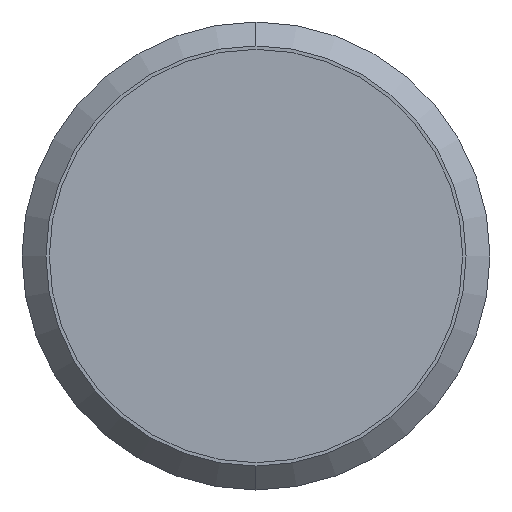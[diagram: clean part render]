
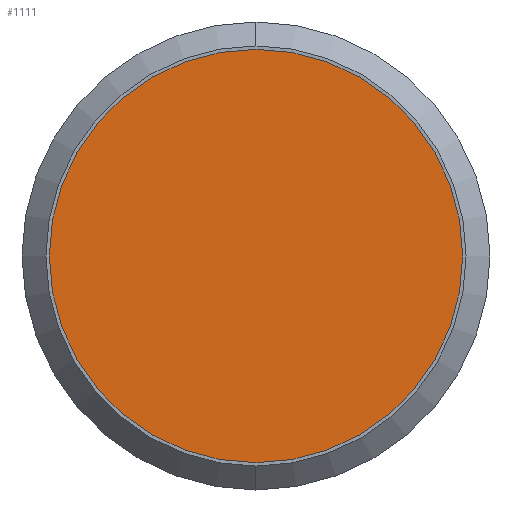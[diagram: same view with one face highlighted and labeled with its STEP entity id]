
A CAD part, left-side view. The second image highlights one B-rep face of the part: STEP entity #1111.
In plain terms, the highlighted planar face has unit normal (-1, 0, 0).
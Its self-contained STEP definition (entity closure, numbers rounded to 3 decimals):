
#16 = DIRECTION ( 'NONE',  ( 1., 0., 0. ) ) ;
#40 = CIRCLE ( 'NONE', #82, 5.3 ) ;
#82 = AXIS2_PLACEMENT_3D ( 'NONE', #173, #1167, #502 ) ;
#173 = CARTESIAN_POINT ( 'NONE',  ( 0., 0., 0. ) ) ;
#234 = CARTESIAN_POINT ( 'NONE',  ( 0., 0., 5.3 ) ) ;
#285 = CIRCLE ( 'NONE', #460, 5.3 ) ;
#347 = EDGE_LOOP ( 'NONE', ( #1663, #1524 ) ) ;
#460 = AXIS2_PLACEMENT_3D ( 'NONE', #874, #16, #1014 ) ;
#502 = DIRECTION ( 'NONE',  ( 0., 0., -1. ) ) ;
#523 = PLANE ( 'NONE',  #1491 ) ;
#805 = CARTESIAN_POINT ( 'NONE',  ( 0., 2.65, 0. ) ) ;
#874 = CARTESIAN_POINT ( 'NONE',  ( 0., 0., 0. ) ) ;
#939 = DIRECTION ( 'NONE',  ( 0., 0., 1. ) ) ;
#952 = EDGE_CURVE ( 'NONE', #1120, #1347, #285, .T. ) ;
#1001 = CARTESIAN_POINT ( 'NONE',  ( 0., 0., -5.3 ) ) ;
#1014 = DIRECTION ( 'NONE',  ( 0., 0., -1. ) ) ;
#1111 = ADVANCED_FACE ( 'NONE', ( #1228 ), #523, .T. ) ;
#1120 = VERTEX_POINT ( 'NONE', #234 ) ;
#1167 = DIRECTION ( 'NONE',  ( 1., 0., 0. ) ) ;
#1228 = FACE_OUTER_BOUND ( 'NONE', #347, .T. ) ;
#1347 = VERTEX_POINT ( 'NONE', #1001 ) ;
#1491 = AXIS2_PLACEMENT_3D ( 'NONE', #805, #1799, #939 ) ;
#1524 = ORIENTED_EDGE ( 'NONE', *, *, #952, .F. ) ;
#1663 = ORIENTED_EDGE ( 'NONE', *, *, #1823, .F. ) ;
#1799 = DIRECTION ( 'NONE',  ( -1., 0., 0. ) ) ;
#1823 = EDGE_CURVE ( 'NONE', #1347, #1120, #40, .T. ) ;
